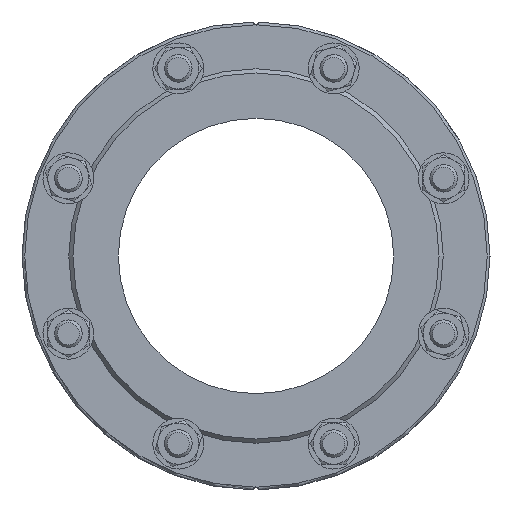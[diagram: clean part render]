
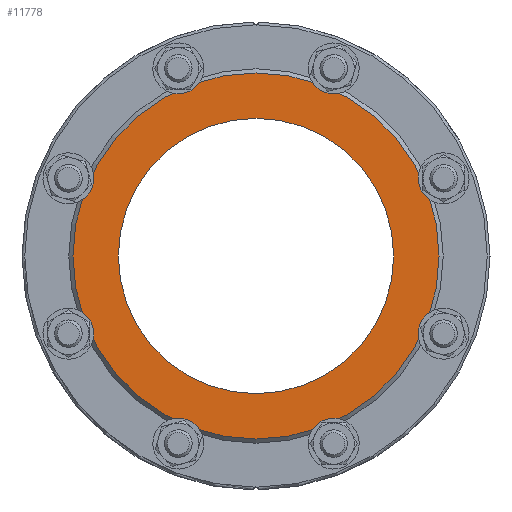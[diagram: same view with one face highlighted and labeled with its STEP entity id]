
A CAD part, left-side view. The second image highlights one B-rep face of the part: STEP entity #11778.
In plain terms, the highlighted planar face has unit normal (-1, 0, 0).
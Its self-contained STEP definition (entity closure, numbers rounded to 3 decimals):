
#1783 = ORIENTED_EDGE ( 'NONE', *, *, #2042, .T. ) ;
#2042 = EDGE_CURVE ( 'NONE', #6066, #6066, #14214, .T. ) ;
#2147 = DIRECTION ( 'NONE',  ( 1., 0., 0. ) ) ;
#3301 = DIRECTION ( 'NONE',  ( 1., 0., 0. ) ) ;
#3528 = VERTEX_POINT ( 'NONE', #8775 ) ;
#3723 = EDGE_CURVE ( 'NONE', #3528, #3528, #8706, .T. ) ;
#6066 = VERTEX_POINT ( 'NONE', #22738 ) ;
#6154 = AXIS2_PLACEMENT_3D ( 'NONE', #13487, #3301, #20298 ) ;
#6596 = DIRECTION ( 'NONE',  ( 0., 1., 0. ) ) ;
#6630 = DIRECTION ( 'NONE',  ( 0., -1., 0. ) ) ;
#7071 = CARTESIAN_POINT ( 'NONE',  ( -63., 0., 100. ) ) ;
#8706 = CIRCLE ( 'NONE', #6154, 100. ) ;
#8775 = CARTESIAN_POINT ( 'NONE',  ( -63., 0., -100. ) ) ;
#10525 = ORIENTED_EDGE ( 'NONE', *, *, #3723, .T. ) ;
#11255 = DIRECTION ( 'NONE',  ( -1., 0., 0. ) ) ;
#11778 = ADVANCED_FACE ( 'NONE', ( #15972, #16894 ), #24055, .F. ) ;
#12278 = EDGE_LOOP ( 'NONE', ( #10525 ) ) ;
#12436 = EDGE_LOOP ( 'NONE', ( #1783 ) ) ;
#13487 = CARTESIAN_POINT ( 'NONE',  ( -63., 0., 0. ) ) ;
#14214 = CIRCLE ( 'NONE', #23345, 133. ) ;
#15972 = FACE_BOUND ( 'NONE', #12278, .T. ) ;
#16894 = FACE_OUTER_BOUND ( 'NONE', #12436, .T. ) ;
#20298 = DIRECTION ( 'NONE',  ( 0., 0., -1. ) ) ;
#22738 = CARTESIAN_POINT ( 'NONE',  ( -63., -133., 0. ) ) ;
#23345 = AXIS2_PLACEMENT_3D ( 'NONE', #28070, #11255, #6630 ) ;
#24055 = PLANE ( 'NONE',  #29598 ) ;
#28070 = CARTESIAN_POINT ( 'NONE',  ( -63., 0., 0. ) ) ;
#29598 = AXIS2_PLACEMENT_3D ( 'NONE', #7071, #2147, #6596 ) ;
